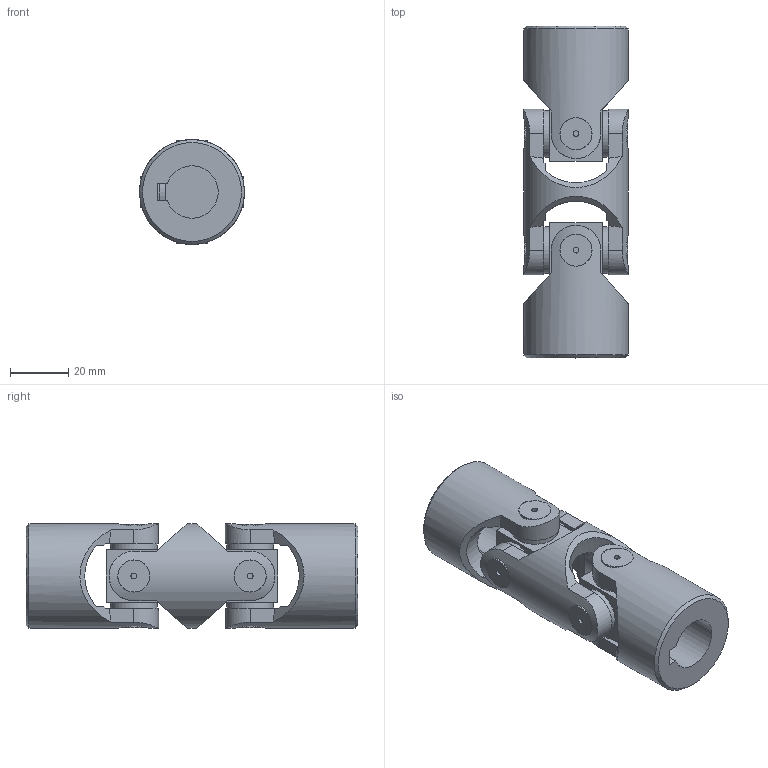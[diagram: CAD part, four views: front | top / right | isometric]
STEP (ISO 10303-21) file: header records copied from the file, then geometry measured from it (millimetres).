
FILE_DESCRIPTION(/* description */ (''),/* implementation_level */ '2;1');
FILE_NAME(/* name */ '\\SRV2016\Societa\Stefano\Disegni 3D\00Catalogo 3D\02Doppi GD-GBD\SG0D181C.stp',/* time_stamp */ '2021-11-23T12:23:17+01:00',/* author */ ('acquisti'),/* organization */ (''),/* preprocessor_version */ 'ST-DEVELOPER v15.6',/* originating_system */ 'Autodesk Inventor 2015',/* authorisation */ '');
FILE_SCHEMA (('AUTOMOTIVE_DESIGN { 1 0 10303 214 3 1 1 }'));
Length unit declared in the file: millimetre
Products named in the file (5): 2G MOD; 2G SFE; 2G MOC; 2G MOS; Ø36_2GD-00_SG0D1800
Assembly tree (5 placements, depth 2):
  Ø36_2GD-00_SG0D1800
    2G MOD
    2G SFE  x2
    2G MOC
    2G MOS
Bounding box: 36 x 114 x 36 mm (x, y, z)
Volume: 74107.6 mm3; surface area: 25947.6 mm2
Topology: 5 solids, 5 shells, 164 faces, 388 edges, 254 vertices
Faces by surface type: plane 73, cylinder 65, cone 22, torus 4
Full cylindrical faces by diameter (mm): 2 x8, 16 x8, 18 x1, 20 x3, 36 x3
Entity records: 5113 total; most frequent: CARTESIAN_POINT 1815, ORIENTED_EDGE 664, DIRECTION 627, EDGE_CURVE 332, AXIS2_PLACEMENT_3D 279, VERTEX_POINT 234, EDGE_LOOP 200, FACE_OUTER_BOUND 150
